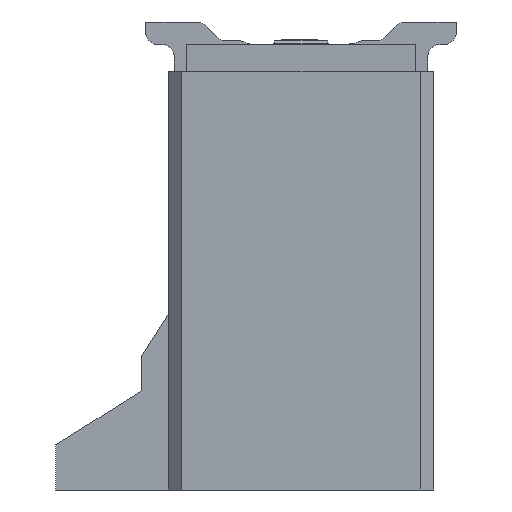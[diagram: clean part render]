
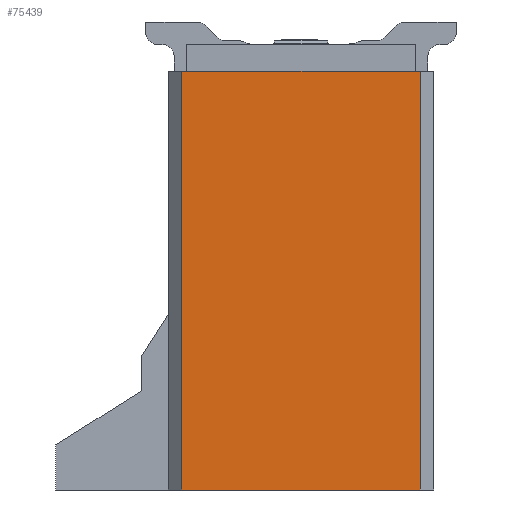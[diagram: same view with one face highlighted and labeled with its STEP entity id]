
A CAD part, left-side view. The second image highlights one B-rep face of the part: STEP entity #75439.
In plain terms, the highlighted planar face has unit normal (-1, 0, 0).
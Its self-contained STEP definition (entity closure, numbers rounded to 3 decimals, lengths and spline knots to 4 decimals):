
#402=DIRECTION('',(0.,-1.,0.));
#403=VECTOR('',#402,2.65);
#404=CARTESIAN_POINT('',(-12.1,-0.15,-0.3));
#405=LINE('',#404,#403);
#1520=DIRECTION('',(0.,1.,0.));
#1521=VECTOR('',#1520,2.65);
#1522=CARTESIAN_POINT('',(-12.1,-2.8,-4.95));
#1523=LINE('',#1522,#1521);
#1564=DIRECTION('',(0.,0.,1.));
#1565=VECTOR('',#1564,4.65);
#1566=CARTESIAN_POINT('',(-12.1,-0.15,-4.95));
#1567=LINE('',#1566,#1565);
#1568=DIRECTION('',(0.,0.,-1.));
#1569=VECTOR('',#1568,4.65);
#1570=CARTESIAN_POINT('',(-12.1,-2.8,-0.3));
#1571=LINE('',#1570,#1569);
#56519=CARTESIAN_POINT('',(-12.1,-0.15,-0.3));
#56520=VERTEX_POINT('',#56519);
#56521=CARTESIAN_POINT('',(-12.1,-2.8,-0.3));
#56522=VERTEX_POINT('',#56521);
#60083=CARTESIAN_POINT('',(-12.1,-2.8,-4.95));
#60084=VERTEX_POINT('',#60083);
#60085=CARTESIAN_POINT('',(-12.1,-0.15,-4.95));
#60086=VERTEX_POINT('',#60085);
#75427=CARTESIAN_POINT('',(-12.1,-2.853,-0.207));
#75428=DIRECTION('',(-1.,0.,0.));
#75429=DIRECTION('',(0.,1.,0.));
#75430=AXIS2_PLACEMENT_3D('',#75427,#75428,#75429);
#75431=PLANE('',#75430);
#75432=ORIENTED_EDGE('',*,*,#72352,.T.);
#75434=ORIENTED_EDGE('',*,*,#75433,.T.);
#75435=ORIENTED_EDGE('',*,*,#75358,.T.);
#75436=ORIENTED_EDGE('',*,*,#75420,.T.);
#75437=EDGE_LOOP('',(#75432,#75434,#75435,#75436));
#75438=FACE_OUTER_BOUND('',#75437,.F.);
#75439=ADVANCED_FACE('',(#75438),#75431,.T.);
#72352=EDGE_CURVE('',#56520,#56522,#405,.T.);
#75358=EDGE_CURVE('',#60084,#60086,#1523,.T.);
#75420=EDGE_CURVE('',#60086,#56520,#1567,.T.);
#75433=EDGE_CURVE('',#56522,#60084,#1571,.T.);
